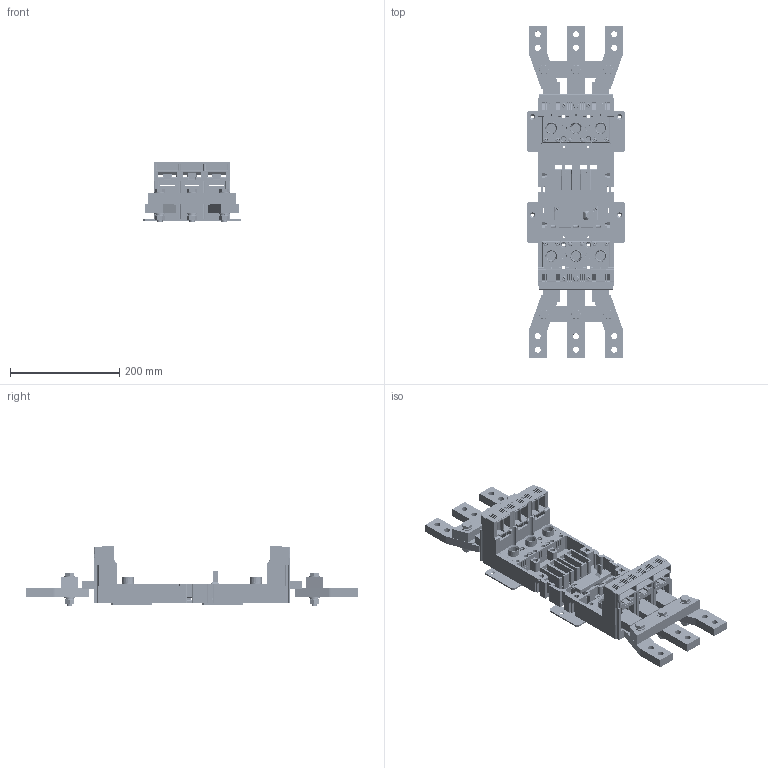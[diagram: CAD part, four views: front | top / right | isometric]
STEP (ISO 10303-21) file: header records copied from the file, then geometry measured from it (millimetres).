
FILE_DESCRIPTION (( 'STEP AP214' ), '1' );
FILE_NAME ('ZO-BH-0630-300__CS-BH-JT75__OD-BH-MT75.step', '2011-09-07T07:55:16', ( 'Radek Veselý' ), ( 'Siemens and Partners' ), 'SwSTEP 2.0', 'SolidWorks 2006303', '' );
FILE_SCHEMA (( 'AUTOMOTIVE_DESIGN' ));
Length unit declared in the file: millimetre
Products named in the file (1): ZO-BH-0630-300__CS-BH-JT75__OD-BH-MT75
Bounding box: 180 x 608 x 111 mm (x, y, z)
Volume: 1759391.9 mm3; surface area: 810728.5 mm2
Topology: 80 solids, 80 shells, 7457 faces, 19550 edges, 12244 vertices
Faces by surface type: plane 4466, cylinder 2124, cone 308, torus 195, sphere 190, bspline 174
Entity records: 314991 total; most frequent: CARTESIAN_POINT 49969, ORIENTED_EDGE 38676, DIRECTION 37194, EDGE_CURVE 19338, VECTOR 13244, LINE 13244, VERTEX_POINT 12244, AXIS2_PLACEMENT_3D 11975
